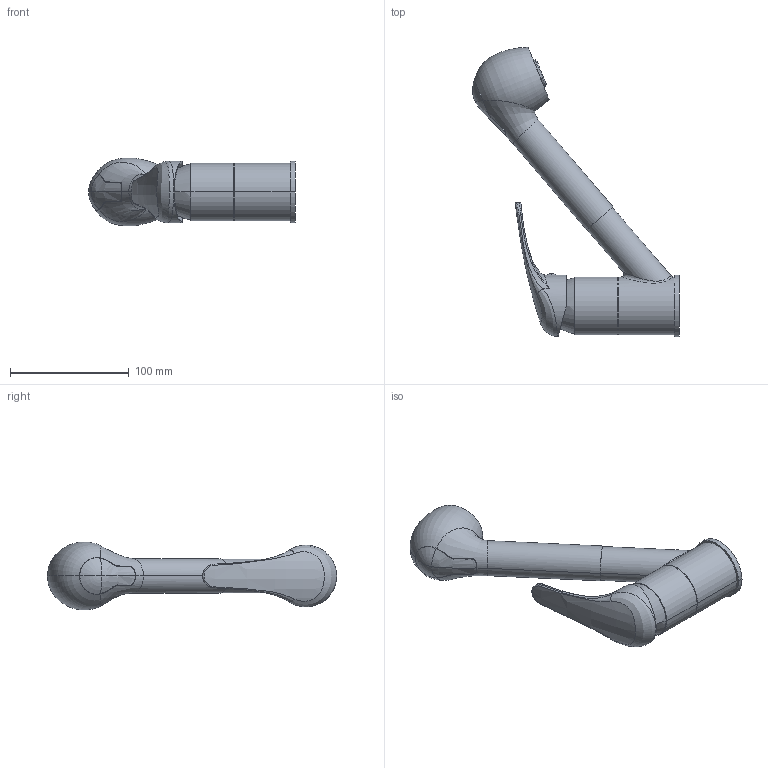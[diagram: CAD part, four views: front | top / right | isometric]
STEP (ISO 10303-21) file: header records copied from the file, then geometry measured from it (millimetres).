
FILE_DESCRIPTION((''),'2;1');
FILE_NAME('SHUILONGTOU-06-ASM_ASM_6_ASM_AS_ASM','2021-04-10T',('QYH'),(''),'PRO/ENGINEER BY PARAMETRIC TECHNOLOGY CORPORATION, 2015240','PRO/ENGINEER BY PARAMETRIC TECHNOLOGY CORPORATION, 2015240','');
FILE_SCHEMA(('CONFIG_CONTROL_DESIGN'));
Length unit declared in the file: millimetre
Products named in the file (15): 06-IGS_5; DD-06_1; 06-D-1_1; 06-D-2_1; 06-D-ASM_ASM_1_ASM_1_ASM_ASM_ASM; 06-D-ASM_ASM_ASM_1_ASM_ASM_ASM; 04-1_1_1; 04-2_1_1; 04-3_1_1; ASM0002_ASM_ASM_ASM_ASM_ASM_ASM_ASM; 0709-F_ASM_ASM_1_ASM_1_ASM_ASM_ASM; 1006-A_ASM_1_ASM_1_ASM_ASM_ASM; CHUSHUI-01_ASM_1_ASM_ASM_ASM; BS-03; SHUILONGTOU-06-ASM_ASM_6_ASM_AS_ASM
Assembly tree (14 placements, depth 6):
  SHUILONGTOU-06-ASM_ASM_6_ASM_AS_ASM
    06-IGS_5
    DD-06_1
    06-D-ASM_ASM_ASM_1_ASM_ASM_ASM
      06-D-ASM_ASM_1_ASM_1_ASM_ASM_ASM
        06-D-1_1
        06-D-2_1
    CHUSHUI-01_ASM_1_ASM_ASM_ASM
      1006-A_ASM_1_ASM_1_ASM_ASM_ASM
        0709-F_ASM_ASM_1_ASM_1_ASM_ASM_ASM
          ASM0002_ASM_ASM_ASM_ASM_ASM_ASM_ASM
            04-1_1_1
            04-2_1_1
            04-3_1_1
    BS-03
Bounding box: 174.39 x 244.05 x 57.35 mm (x, y, z)
Volume: 422519 mm3; surface area: 73560.8 mm2
Topology: 8 solids, 8 shells, 1134 faces, 3494 edges, 2260 vertices
Faces by surface type: plane 881, cylinder 172, bspline 43, cone 16, torus 11, revolution 5, sphere 4, extrusion 2
Entity records: 46563 total; most frequent: CARTESIAN_POINT 14422, ORIENTED_EDGE 6972, DIRECTION 6141, EDGE_CURVE 3486, VECTOR 2642, LINE 2640, VERTEX_POINT 2260, AXIS2_PLACEMENT_3D 1747
